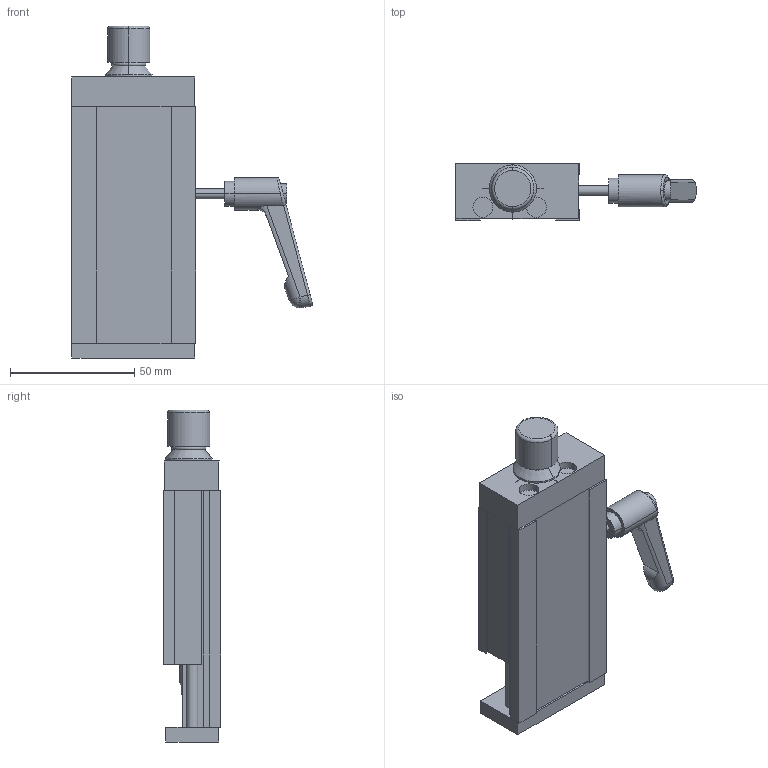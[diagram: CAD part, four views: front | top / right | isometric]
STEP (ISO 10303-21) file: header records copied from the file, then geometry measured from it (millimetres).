
FILE_DESCRIPTION (( 'STEP AP203' ), '1' );
FILE_NAME ('domiLINE 50 Hub 25 K.STEP', '2006-09-19T10:29:04', ( '' ), ( '' ), 'SwSTEP 2.0', 'SolidWorks 2006040', '' );
FILE_SCHEMA (( 'CONFIG_CONTROL_DESIGN' ));
Length unit declared in the file: millimetre
Products named in the file (4): Klemmhebel-+-D006684_ _PDB_319214; dL 50 light-+-D018335_ _Hub 25; domiLINE 50 Hub 25 K; Aussenschlitten 50-+-D009143_ _Standard
Assembly tree (3 placements, depth 2):
  domiLINE 50 Hub 25 K
    Aussenschlitten 50-+-D009143_ _Standard
    dL 50 light-+-D018335_ _Hub 25
    Klemmhebel-+-D006684_ _PDB_319214
Bounding box: 96.86 x 23 x 133.5 mm (x, y, z)
Volume: 104251.6 mm3; surface area: 44147.2 mm2
Topology: 3 solids, 3 shells, 177 faces, 443 edges, 286 vertices
Faces by surface type: plane 110, cylinder 50, bspline 5, cone 4, torus 4, sphere 4
Entity records: 9488 total; most frequent: CARTESIAN_POINT 4804, ORIENTED_EDGE 886, DIRECTION 881, EDGE_CURVE 443, VECTOR 313, LINE 313, VERTEX_POINT 286, AXIS2_PLACEMENT_3D 284
